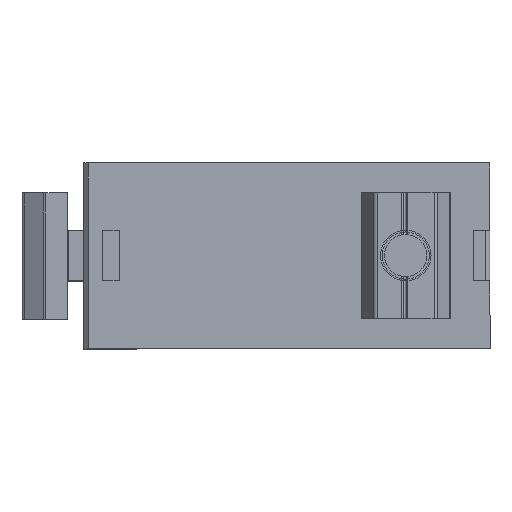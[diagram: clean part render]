
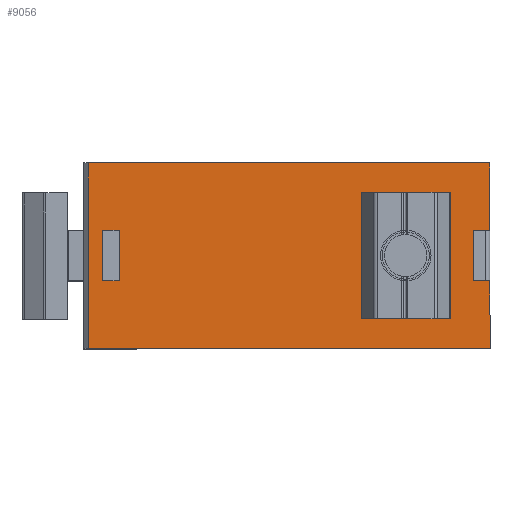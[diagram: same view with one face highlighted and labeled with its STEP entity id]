
A CAD part, top view. The second image highlights one B-rep face of the part: STEP entity #9056.
In plain terms, the highlighted planar face has unit normal (0, 0, 1).
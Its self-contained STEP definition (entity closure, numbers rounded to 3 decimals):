
#286 = VERTEX_POINT ( 'NONE', #4379 ) ;
#357 = DIRECTION ( 'NONE',  ( 0., 1., 0. ) ) ;
#449 = CARTESIAN_POINT ( 'NONE',  ( 50., 0., -1.8 ) ) ;
#703 = CARTESIAN_POINT ( 'NONE',  ( 50., 0., -1.8 ) ) ;
#717 = AXIS2_PLACEMENT_3D ( 'NONE', #3161, #8448, #3931 ) ;
#763 = DIRECTION ( 'NONE',  ( 0., 0., -1. ) ) ;
#796 = DIRECTION ( 'NONE',  ( -1., 0., 0. ) ) ;
#860 = CARTESIAN_POINT ( 'NONE',  ( 48., 14., -1.8 ) ) ;
#1080 = ORIENTED_EDGE ( 'NONE', *, *, #2914, .T. ) ;
#1197 = VERTEX_POINT ( 'NONE', #2581 ) ;
#1212 = ORIENTED_EDGE ( 'NONE', *, *, #1798, .T. ) ;
#1265 = LINE ( 'NONE', #8495, #3928 ) ;
#1428 = CARTESIAN_POINT ( 'NONE',  ( 40., 11., -1.8 ) ) ;
#1475 = DIRECTION ( 'NONE',  ( 0., 1., 0. ) ) ;
#1505 = FACE_OUTER_BOUND ( 'NONE', #3959, .T. ) ;
#1548 = EDGE_LOOP ( 'NONE', ( #3305, #3350, #8029, #1837 ) ) ;
#1614 = VERTEX_POINT ( 'NONE', #9833 ) ;
#1777 = ORIENTED_EDGE ( 'NONE', *, *, #2543, .F. ) ;
#1781 = EDGE_CURVE ( 'NONE', #6663, #8062, #8536, .T. ) ;
#1797 = DIRECTION ( 'NONE',  ( 0., -1., 0. ) ) ;
#1798 = EDGE_CURVE ( 'NONE', #9837, #7656, #1882, .T. ) ;
#1837 = ORIENTED_EDGE ( 'NONE', *, *, #9181, .T. ) ;
#1849 = EDGE_CURVE ( 'NONE', #5285, #9456, #9345, .T. ) ;
#1882 = CIRCLE ( 'NONE', #717, 3.1 ) ;
#1910 = CARTESIAN_POINT ( 'NONE',  ( 4., 0., -1.8 ) ) ;
#1977 = DIRECTION ( 'NONE',  ( 0., -1., 0. ) ) ;
#2030 = VECTOR ( 'NONE', #1475, 1000. ) ;
#2187 = EDGE_CURVE ( 'NONE', #5907, #2609, #1265, .T. ) ;
#2208 = CIRCLE ( 'NONE', #7582, 3.1 ) ;
#2265 = EDGE_CURVE ( 'NONE', #1614, #1197, #2587, .T. ) ;
#2440 = DIRECTION ( 'NONE',  ( 0., 1., 0. ) ) ;
#2543 = EDGE_CURVE ( 'NONE', #1197, #7005, #4032, .T. ) ;
#2548 = CARTESIAN_POINT ( 'NONE',  ( 6., 8., -1.8 ) ) ;
#2581 = CARTESIAN_POINT ( 'NONE',  ( 50., 14., -1.8 ) ) ;
#2583 = CARTESIAN_POINT ( 'NONE',  ( 50., 8., -1.8 ) ) ;
#2587 = LINE ( 'NONE', #7771, #2832 ) ;
#2609 = VERTEX_POINT ( 'NONE', #4327 ) ;
#2808 = ORIENTED_EDGE ( 'NONE', *, *, #7629, .T. ) ;
#2832 = VECTOR ( 'NONE', #1797, 1000. ) ;
#2914 = EDGE_CURVE ( 'NONE', #8591, #9456, #3918, .T. ) ;
#2968 = CARTESIAN_POINT ( 'NONE',  ( 48., 0., -1.8 ) ) ;
#3161 = CARTESIAN_POINT ( 'NONE',  ( 40., 11., -1.8 ) ) ;
#3199 = PLANE ( 'NONE',  #4551 ) ;
#3305 = ORIENTED_EDGE ( 'NONE', *, *, #1781, .F. ) ;
#3350 = ORIENTED_EDGE ( 'NONE', *, *, #8027, .F. ) ;
#3671 = ORIENTED_EDGE ( 'NONE', *, *, #1849, .F. ) ;
#3877 = ORIENTED_EDGE ( 'NONE', *, *, #9388, .T. ) ;
#3918 = LINE ( 'NONE', #5747, #9448 ) ;
#3928 = VECTOR ( 'NONE', #5229, 1000. ) ;
#3931 = DIRECTION ( 'NONE',  ( 0., 1., 0. ) ) ;
#3959 = EDGE_LOOP ( 'NONE', ( #3877, #1080, #3671, #9637, #2808, #6682, #1777, #7714 ) ) ;
#4032 = LINE ( 'NONE', #9671, #8860 ) ;
#4082 = CARTESIAN_POINT ( 'NONE',  ( 50., 0., -1.8 ) ) ;
#4151 = LINE ( 'NONE', #449, #5687 ) ;
#4327 = CARTESIAN_POINT ( 'NONE',  ( 4., 8., -1.8 ) ) ;
#4341 = CARTESIAN_POINT ( 'NONE',  ( 50., 22., -1.8 ) ) ;
#4379 = CARTESIAN_POINT ( 'NONE',  ( 48., 8., -1.8 ) ) ;
#4445 = CARTESIAN_POINT ( 'NONE',  ( 2.3, 0., -1.8 ) ) ;
#4495 = VECTOR ( 'NONE', #8348, 1000. ) ;
#4551 = AXIS2_PLACEMENT_3D ( 'NONE', #6990, #9317, #2440 ) ;
#4909 = DIRECTION ( 'NONE',  ( 0., 1., 0. ) ) ;
#5229 = DIRECTION ( 'NONE',  ( -1., 0., 0. ) ) ;
#5285 = VERTEX_POINT ( 'NONE', #703 ) ;
#5687 = VECTOR ( 'NONE', #7269, 1000. ) ;
#5731 = CARTESIAN_POINT ( 'NONE',  ( 6., 0., -1.8 ) ) ;
#5747 = CARTESIAN_POINT ( 'NONE',  ( 2.3, 22., -1.8 ) ) ;
#5863 = CARTESIAN_POINT ( 'NONE',  ( 43.1, 11., -1.8 ) ) ;
#5907 = VERTEX_POINT ( 'NONE', #2548 ) ;
#6318 = EDGE_CURVE ( 'NONE', #286, #7005, #9736, .T. ) ;
#6415 = VECTOR ( 'NONE', #7149, 1000. ) ;
#6422 = VECTOR ( 'NONE', #357, 1000. ) ;
#6443 = CARTESIAN_POINT ( 'NONE',  ( 6., 14., -1.8 ) ) ;
#6542 = VECTOR ( 'NONE', #796, 1000. ) ;
#6663 = VERTEX_POINT ( 'NONE', #6443 ) ;
#6682 = ORIENTED_EDGE ( 'NONE', *, *, #6318, .T. ) ;
#6864 = VECTOR ( 'NONE', #4909, 1000. ) ;
#6955 = CARTESIAN_POINT ( 'NONE',  ( 50., 14., -1.8 ) ) ;
#6990 = CARTESIAN_POINT ( 'NONE',  ( 50., 22., -1.8 ) ) ;
#7005 = VERTEX_POINT ( 'NONE', #860 ) ;
#7054 = VECTOR ( 'NONE', #7938, 1000. ) ;
#7093 = LINE ( 'NONE', #1910, #6864 ) ;
#7149 = DIRECTION ( 'NONE',  ( -1., 0., 0. ) ) ;
#7269 = DIRECTION ( 'NONE',  ( 0., -1., 0. ) ) ;
#7301 = CARTESIAN_POINT ( 'NONE',  ( 36.9, 11., -1.8 ) ) ;
#7518 = DIRECTION ( 'NONE',  ( 0., 1., 0. ) ) ;
#7582 = AXIS2_PLACEMENT_3D ( 'NONE', #1428, #763, #7518 ) ;
#7629 = EDGE_CURVE ( 'NONE', #9609, #286, #9588, .T. ) ;
#7656 = VERTEX_POINT ( 'NONE', #7301 ) ;
#7692 = LINE ( 'NONE', #4341, #4495 ) ;
#7714 = ORIENTED_EDGE ( 'NONE', *, *, #2265, .F. ) ;
#7771 = CARTESIAN_POINT ( 'NONE',  ( 50., 22., -1.8 ) ) ;
#7938 = DIRECTION ( 'NONE',  ( -1., 0., 0. ) ) ;
#7961 = LINE ( 'NONE', #5731, #6422 ) ;
#8027 = EDGE_CURVE ( 'NONE', #5907, #6663, #7961, .T. ) ;
#8029 = ORIENTED_EDGE ( 'NONE', *, *, #2187, .T. ) ;
#8062 = VERTEX_POINT ( 'NONE', #8715 ) ;
#8323 = EDGE_LOOP ( 'NONE', ( #9441, #1212 ) ) ;
#8348 = DIRECTION ( 'NONE',  ( -1., 0., 0. ) ) ;
#8448 = DIRECTION ( 'NONE',  ( 0., 0., -1. ) ) ;
#8495 = CARTESIAN_POINT ( 'NONE',  ( 50., 8., -1.8 ) ) ;
#8499 = CARTESIAN_POINT ( 'NONE',  ( 50., 8., -1.8 ) ) ;
#8536 = LINE ( 'NONE', #6955, #6542 ) ;
#8591 = VERTEX_POINT ( 'NONE', #9432 ) ;
#8618 = FACE_BOUND ( 'NONE', #8323, .T. ) ;
#8715 = CARTESIAN_POINT ( 'NONE',  ( 4., 14., -1.8 ) ) ;
#8760 = EDGE_CURVE ( 'NONE', #9609, #5285, #4151, .T. ) ;
#8811 = DIRECTION ( 'NONE',  ( -1., 0., 0. ) ) ;
#8860 = VECTOR ( 'NONE', #8811, 1000. ) ;
#9056 = ADVANCED_FACE ( 'NONE', ( #8618, #9092, #1505 ), #3199, .F. ) ;
#9092 = FACE_BOUND ( 'NONE', #1548, .T. ) ;
#9181 = EDGE_CURVE ( 'NONE', #2609, #8062, #7093, .T. ) ;
#9317 = DIRECTION ( 'NONE',  ( 0., 0., -1. ) ) ;
#9345 = LINE ( 'NONE', #4082, #6415 ) ;
#9380 = EDGE_CURVE ( 'NONE', #7656, #9837, #2208, .T. ) ;
#9388 = EDGE_CURVE ( 'NONE', #1614, #8591, #7692, .T. ) ;
#9432 = CARTESIAN_POINT ( 'NONE',  ( 2.3, 22., -1.8 ) ) ;
#9441 = ORIENTED_EDGE ( 'NONE', *, *, #9380, .T. ) ;
#9448 = VECTOR ( 'NONE', #1977, 1000. ) ;
#9456 = VERTEX_POINT ( 'NONE', #4445 ) ;
#9588 = LINE ( 'NONE', #2583, #7054 ) ;
#9609 = VERTEX_POINT ( 'NONE', #8499 ) ;
#9637 = ORIENTED_EDGE ( 'NONE', *, *, #8760, .F. ) ;
#9671 = CARTESIAN_POINT ( 'NONE',  ( 50., 14., -1.8 ) ) ;
#9736 = LINE ( 'NONE', #2968, #2030 ) ;
#9833 = CARTESIAN_POINT ( 'NONE',  ( 50., 22., -1.8 ) ) ;
#9837 = VERTEX_POINT ( 'NONE', #5863 ) ;
